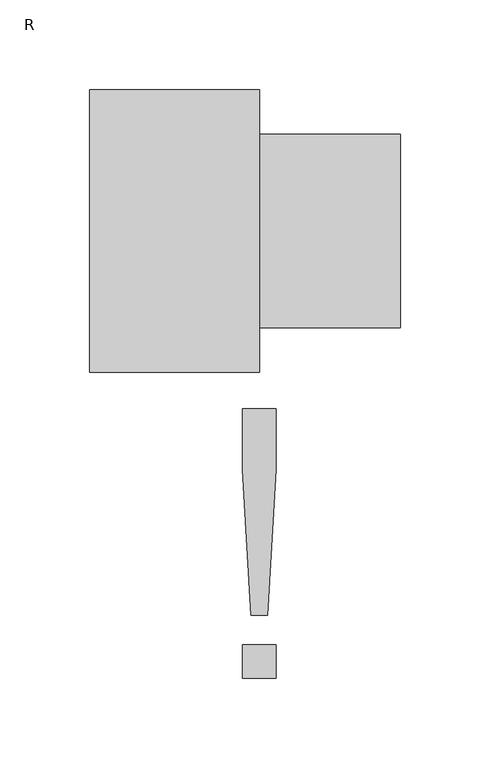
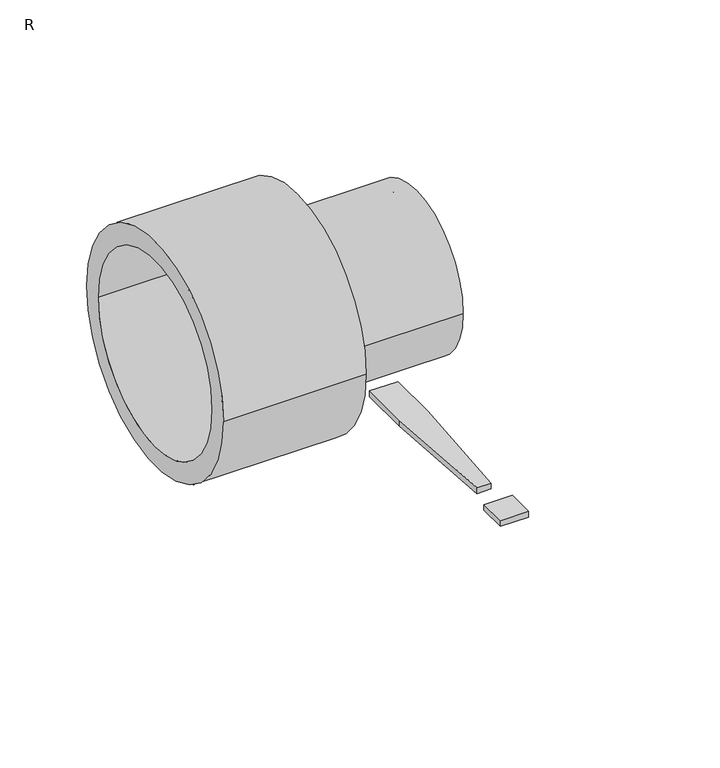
"""IFC4 building model written with IfcOpenShell, lengths in millimetres: pipe fitting geometry, FUSAPEX reducer for T-Piece : R."""

from ifc_helpers import new_model, si_unit, frame, origin, origin_with_axes, place, context, project, spatial, polyline, circle_curve, outline, extrude, source, transform, mapped, element, save
from ifc_brep_helpers import plane_surface, cylinder_surface, revolved_surface, advanced_brep


def r_4a3a0498(model_context):
    return source(origin(), model_context, "Body", "SolidModel", [
        extrude(outline(polyline([(-4.7088895, -214.6833285), (-9.4177791, -133.3446193), (-9.4177791, -99.3155348), (9.4177791, -99.3155348), (9.4177791, -133.3446193), (4.7088895, -214.6833285), (-4.7088895, -214.6833285)])), origin_with_axes(), (0.0, 0.0, 1.0), 4.0),
        extrude(outline(polyline([(-9.4177791, -250.0), (-9.4177791, -231.1644418), (9.4177791, -231.1644418), (9.4177791, -250.0), (-9.4177791, -250.0)])), origin_with_axes(), (0.0, 0.0, 1.0), 4.0),
        advanced_brep(
        [(-95.0, 65.4, 0.0), (-95.0, -65.4, 0.0), (-14.6, -65.4, 0.0), (-14.6, 65.4, 0.0), (0.0, 79.0, 0.0), (0.0, -79.0, 0.0), (-95.0, -79.0, 0.0), (-95.0, 79.0, 0.0), (79.0, 54.0, 0.0), (79.0, -54.0, 0.0), (0.0, -54.0, 0.0), (0.0, 54.0, 0.0), (-14.6, 45.0, 0.0), (-14.6, -45.0, 0.0), (79.0, -45.0, 0.0), (79.0, 45.0, 0.0)],
        [
            (0, 1, circle_curve(frame((-95.0, 0.0, 0.0), z_axis=(-1.0, 0.0, 0.0), x_axis=(0.0, -1.0, 0.0)), 65.4)),
            (1, 2),
            (2, 3, circle_curve(frame((-14.6, 0.0, 0.0), z_axis=(1.0, 0.0, 0.0), x_axis=(0.0, -1.0, 0.0)), 65.4)),
            (3, 0),
            (4, 5, circle_curve(frame((0.0, 0.0, 0.0), z_axis=(-1.0, 0.0, 0.0), x_axis=(0.0, -1.0, 0.0)), 79.0)),
            (5, 6),
            (6, 7, circle_curve(frame((-95.0, 0.0, 0.0), z_axis=(1.0, 0.0, 0.0), x_axis=(0.0, -1.0, 0.0)), 79.0)),
            (7, 4),
            (8, 9, circle_curve(frame((79.0, 0.0, 0.0), z_axis=(-1.0, 0.0, 0.0), x_axis=(0.0, -1.0, 0.0)), 54.0)),
            (9, 10),
            (10, 11, circle_curve(frame((0.0, 0.0, 0.0), z_axis=(1.0, 0.0, 0.0), x_axis=(0.0, -1.0, 0.0)), 54.0)),
            (11, 8),
            (12, 13, circle_curve(frame((-14.6, 0.0, 0.0), z_axis=(-1.0, 0.0, 0.0), x_axis=(0.0, -1.0, 0.0)), 45.0)),
            (13, 14),
            (14, 15, circle_curve(frame((79.0, 0.0, 0.0), z_axis=(1.0, 0.0, 0.0), x_axis=(0.0, -1.0, 0.0)), 45.0)),
            (15, 12),
            (1, 0, circle_curve(frame((-95.0, 0.0, 0.0), z_axis=(-1.0, 0.0, 0.0), x_axis=(0.0, 1.0, 0.0)), 65.4)),
            (3, 2, circle_curve(frame((-14.6, 0.0, 0.0), z_axis=(1.0, 0.0, 0.0), x_axis=(0.0, 1.0, 0.0)), 65.4)),
            (6, 7, circle_curve(frame((-95.0, 0.0, 0.0), z_axis=(-1.0, 0.0, 0.0), x_axis=(0.0, 1.0, 0.0)), 79.0)),
            (5, 4, circle_curve(frame((0.0, 0.0, 0.0), z_axis=(-1.0, 0.0, 0.0), x_axis=(0.0, 1.0, 0.0)), 79.0)),
            (10, 11, circle_curve(frame((0.0, 0.0, 0.0), z_axis=(-1.0, 0.0, 0.0), x_axis=(0.0, 1.0, 0.0)), 54.0)),
            (9, 8, circle_curve(frame((79.0, 0.0, 0.0), z_axis=(-1.0, 0.0, 0.0), x_axis=(0.0, 1.0, 0.0)), 54.0)),
            (14, 15, circle_curve(frame((79.0, 0.0, 0.0), z_axis=(-1.0, 0.0, 0.0), x_axis=(0.0, 1.0, 0.0)), 45.0)),
            (13, 12, circle_curve(frame((-14.6, 0.0, 0.0), z_axis=(-1.0, 0.0, 0.0), x_axis=(0.0, 1.0, 0.0)), 45.0)),
        ],
        [
            revolved_surface(polyline([(-14.6, -65.4, 0.0), (-95.0, -65.4, 0.0)]), (0.0, 0.0, 0.0), (1.0, 0.0, 0.0)),
            cylinder_surface(frame((0.0, 0.0, 0.0), z_axis=(1.0, 0.0, 0.0), x_axis=(0.0, -1.0, 0.0)), 79.0),
            cylinder_surface(frame((0.0, 0.0, 0.0), z_axis=(1.0, 0.0, 0.0), x_axis=(0.0, -1.0, 0.0)), 54.0),
            revolved_surface(polyline([(79.0, -45.0, 0.0), (-14.6, -45.0, 0.0)]), (0.0, 0.0, 0.0), (1.0, 0.0, 0.0)),
            revolved_surface(polyline([(-14.6, 65.4, 0.0), (-95.0, 65.4, 0.0)]), (0.0, 0.0, 0.0), (1.0, 0.0, 0.0)),
            plane_surface(frame((-95.0, 0.0, 0.0), z_axis=(-1.0, 0.0, 0.0), x_axis=(0.0, 1.0, 0.0))),
            cylinder_surface(frame((0.0, 0.0, 0.0), z_axis=(1.0, 0.0, 0.0), x_axis=(0.0, 1.0, 0.0)), 79.0),
            plane_surface(frame((0.0, 0.0, 0.0), z_axis=(1.0, 0.0, 0.0), x_axis=(0.0, 1.0, 0.0))),
            cylinder_surface(frame((0.0, 0.0, 0.0), z_axis=(1.0, 0.0, 0.0), x_axis=(0.0, 1.0, 0.0)), 54.0),
            plane_surface(frame((79.0, 0.0, 0.0), z_axis=(1.0, 0.0, 0.0), x_axis=(0.0, 1.0, 0.0))),
            revolved_surface(polyline([(79.0, 45.0, 0.0), (-14.6, 45.0, 0.0)]), (0.0, 0.0, 0.0), (1.0, 0.0, 0.0)),
            plane_surface(frame((-14.6, 0.0, 0.0), z_axis=(-1.0, 0.0, 0.0), x_axis=(0.0, 1.0, 0.0))),
        ],
        [
            (0, [[1, 2, 3, 4]]),
            (1, [[5, 6, 7, 8]]),
            (2, [[9, 10, 11, 12]]),
            (3, [[13, 14, 15, 16]]),
            (4, [[17, -4, 18, -2]]),
            (5, [[19, -7], [-17, -1]]),
            (6, [[20, -8, -19, -6]]),
            (7, [[-20, -5], [21, -11]]),
            (8, [[22, -12, -21, -10]]),
            (9, [[-22, -9], [23, -15]]),
            (10, [[24, -16, -23, -14]]),
            (11, [[-18, -3], [-24, -13]]),
        ],
    ),
    ])


if __name__ == "__main__":
    model = new_model("IFC4")
    model_context = context("Model", 3, world=origin())
    ifc_project = project(units=[si_unit("LENGTHUNIT", "METRE", prefix="MILLI")], contexts=[model_context])
    site = spatial("IfcSite", under=ifc_project)
    building = spatial("IfcBuilding", under=site)
    placement = place(None, origin())
    r_shape = r_4a3a0498(model_context)
    element("IfcPipeFitting", 1, ObjectType="FUSAPEX reducer for T-Piece : R", at=placement, inside=building, context=model_context, shape_type="MappedRepresentation", body=[
        mapped(r_shape, transform((0.0, 0.0, 0.0), x_axis=(1.0, 0.0, 0.0), y_axis=(0.0, 1.0, 0.0), z_axis=(0.0, 0.0, 1.0))),
    ])
    save(model, "model.ifc")
